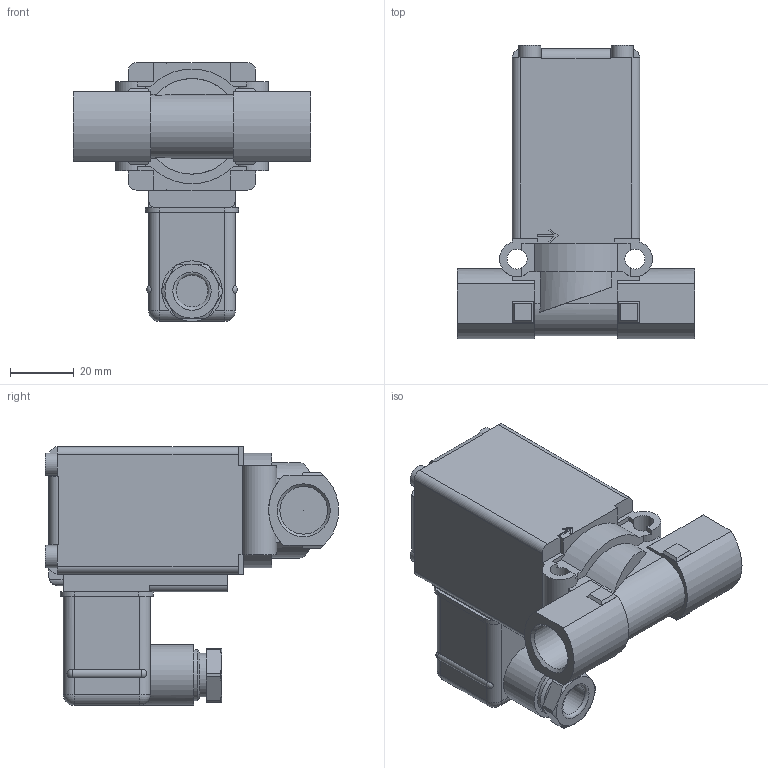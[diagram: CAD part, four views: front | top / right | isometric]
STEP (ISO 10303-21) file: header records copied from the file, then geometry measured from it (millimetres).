
FILE_DESCRIPTION(/* description */ ('STEP AP214'),/* implementation_level */ '2;1');
FILE_NAME(/* name */ '0256-145786-2_2-way_Solenoid_Valve',/* time_stamp */ '2024-07-31T17:20:48+02:00',/* author */ ('License CC BY-ND 4.0'),/* organization */ ('CADENAS'),/* preprocessor_version */ 'ST-DEVELOPER v19.3',/* originating_system */ 'PARTsolutions',/* authorisation */ ' ');
FILE_SCHEMA (('AUTOMOTIVE_DESIGN {1 0 10303 214 3 1 1}'));
Length unit declared in the file: millimetre
Products named in the file (1): 0256-145786-2/2-way Solenoid Valve
Bounding box: 74.5 x 92.1 x 81.2 mm (x, y, z)
Volume: 172286.2 mm3; surface area: 28225.8 mm2
Topology: 1 solids, 1 shells, 243 faces, 638 edges, 407 vertices
Faces by surface type: plane 160, cylinder 64, cone 10, sphere 8, torus 1
Full cylindrical faces by diameter (mm): 0.2 x1, 6.3 x2, 7 x5, 10 x1, 13.7 x1, 14.95 x2, 16 x1, 19 x1
Entity records: 9121 total; most frequent: CARTESIAN_POINT 1402, DIRECTION 1244, ORIENTED_EDGE 1230, EDGE_CURVE 615, AXIS2_PLACEMENT_3D 417, LINE 410, VECTOR 410, VERTEX_POINT 407
